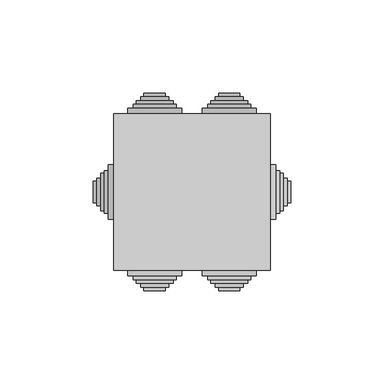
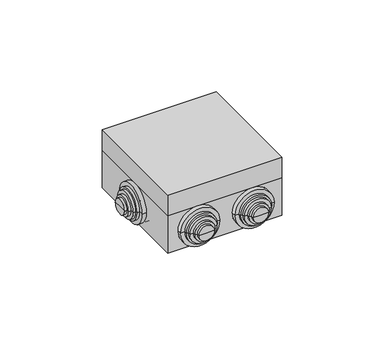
"""IFC4 building model written with IfcOpenShell, lengths in millimetres: cable carrier fitting geometry."""

from ifc_helpers import new_model, si_unit, frame, origin, place, context, project, spatial, polyline, circle_curve, faceted_brep, source, transform, mapped, element, save
from ifc_brep_helpers import plane_surface, cylinder_surface, revolved_surface, advanced_brep


def cable_carrier_fitting_2ab13ce0(model_context):
    return source(origin(), model_context, "Body", "SolidModel", [
        advanced_brep(
        [(-40.0, -11.5, 14.5), (-40.0, 11.5, 14.5), (-40.0, 14.5, 14.5), (-40.0, -14.5, 14.5), (-42.0, -11.5, 14.5), (-42.0, 11.5, 14.5), (-42.0, -14.5, 14.5), (-42.0, 14.5, 14.5), (-45.0, -14.5, 14.5), (-45.0, 14.5, 14.5), (-45.0, -11.5, 14.5), (-45.0, 11.5, 14.5), (-47.0, -11.5, 14.5), (-47.0, 11.5, 14.5), (-47.0, -10.0, 14.5), (-47.0, 10.0, 14.5), (-49.0, -10.0, 14.5), (-49.0, 10.0, 14.5), (-49.0, -7.5, 14.5), (-49.0, 7.5, 14.5), (-51.0, -7.5, 14.5), (-51.0, 7.5, 14.5), (-51.0, -5.75, 14.5), (-51.0, 5.75, 14.5), (-53.0, -5.75, 14.5), (-53.0, 5.75, 14.5), (-53.0, 0.0, 14.5), (-37.0, -11.5, 14.5), (-37.0, 11.5, 14.5), (-37.0, 0.0, 14.5), (-37.7491137, -14.5, 14.5), (-37.7491137, 14.5, 14.5)],
        [
            (0, 1, circle_curve(frame((-40.0, 0.0, 14.5), z_axis=(1.0, 0.0, 0.0), x_axis=(0.0, 1.0000000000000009, 0.0)), 11.5)),
            (1, 2),
            (2, 3, circle_curve(frame((-40.0, 0.0, 14.5), z_axis=(-1.0, 0.0, 0.0), x_axis=(0.0, 1.0000000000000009, 0.0)), 14.5)),
            (3, 0),
            (1, 0, circle_curve(frame((-40.0, 0.0, 14.5), z_axis=(1.0, 0.0, 0.0), x_axis=(0.0, 1.0000000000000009, 0.0)), 11.5)),
            (3, 2, circle_curve(frame((-40.0, 0.0, 14.5), z_axis=(-1.0, 0.0, 0.0), x_axis=(0.0, 1.0000000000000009, 0.0)), 14.5)),
            (4, 5, circle_curve(frame((-42.0, 0.0, 14.5), z_axis=(1.0, 0.0, 0.0), x_axis=(0.0, 1.0000000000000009, 0.0)), 11.5)),
            (5, 1),
            (0, 4),
            (5, 4, circle_curve(frame((-42.0, 0.0, 14.5), z_axis=(1.0, 0.0, 0.0), x_axis=(0.0, 1.0000000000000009, 0.0)), 11.5)),
            (6, 7, circle_curve(frame((-42.0, 0.0, 14.5), z_axis=(1.0, 0.0, 0.0), x_axis=(0.0, 1.0000000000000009, 0.0)), 14.5)),
            (7, 5),
            (4, 6),
            (7, 6, circle_curve(frame((-42.0, 0.0, 14.5), z_axis=(1.0, 0.0, 0.0), x_axis=(0.0, 1.0000000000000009, 0.0)), 14.5)),
            (8, 9, circle_curve(frame((-45.0, 0.0, 14.5), z_axis=(1.0, 0.0, 0.0), x_axis=(0.0, 1.0000000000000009, 0.0)), 14.5)),
            (9, 7),
            (6, 8),
            (9, 8, circle_curve(frame((-45.0, 0.0, 14.5), z_axis=(1.0, 0.0, 0.0), x_axis=(0.0, 1.0000000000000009, 0.0)), 14.5)),
            (10, 11, circle_curve(frame((-45.0, 0.0, 14.5), z_axis=(1.0, 0.0, 0.0), x_axis=(0.0, 1.0000000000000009, 0.0)), 11.5)),
            (11, 9),
            (8, 10),
            (11, 10, circle_curve(frame((-45.0, 0.0, 14.5), z_axis=(1.0, 0.0, 0.0), x_axis=(0.0, 1.0000000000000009, 0.0)), 11.5)),
            (12, 13, circle_curve(frame((-47.0, 0.0, 14.5), z_axis=(1.0, 0.0, 0.0), x_axis=(0.0, 1.0000000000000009, 0.0)), 11.5)),
            (13, 11),
            (10, 12),
            (13, 12, circle_curve(frame((-47.0, 0.0, 14.5), z_axis=(1.0, 0.0, 0.0), x_axis=(0.0, 1.0000000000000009, 0.0)), 11.5)),
            (14, 15, circle_curve(frame((-47.0, 0.0, 14.5), z_axis=(1.0, 0.0, 0.0), x_axis=(0.0, 1.0000000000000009, 0.0)), 10.0)),
            (15, 13),
            (12, 14),
            (15, 14, circle_curve(frame((-47.0, 0.0, 14.5), z_axis=(1.0, 0.0, 0.0), x_axis=(0.0, 1.0000000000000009, 0.0)), 10.0)),
            (16, 17, circle_curve(frame((-49.0, 0.0, 14.5), z_axis=(1.0, 0.0, 0.0), x_axis=(0.0, 1.0000000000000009, 0.0)), 10.0)),
            (17, 15),
            (14, 16),
            (17, 16, circle_curve(frame((-49.0, 0.0, 14.5), z_axis=(1.0, 0.0, 0.0), x_axis=(0.0, 1.0000000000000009, 0.0)), 10.0)),
            (18, 19, circle_curve(frame((-49.0, 0.0, 14.5), z_axis=(1.0, 0.0, 0.0), x_axis=(0.0, 1.0000000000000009, 0.0)), 7.5)),
            (19, 17),
            (16, 18),
            (19, 18, circle_curve(frame((-49.0, 0.0, 14.5), z_axis=(1.0, 0.0, 0.0), x_axis=(0.0, 1.0000000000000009, 0.0)), 7.5)),
            (20, 21, circle_curve(frame((-51.0, 0.0, 14.5), z_axis=(1.0, 0.0, 0.0), x_axis=(0.0, 1.0000000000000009, 0.0)), 7.5)),
            (21, 19),
            (18, 20),
            (21, 20, circle_curve(frame((-51.0, 0.0, 14.5), z_axis=(1.0, 0.0, 0.0), x_axis=(0.0, 1.0000000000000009, 0.0)), 7.5)),
            (22, 23, circle_curve(frame((-51.0, 0.0, 14.5), z_axis=(1.0, 0.0, 0.0), x_axis=(0.0, 1.0000000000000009, 0.0)), 5.75)),
            (23, 21),
            (20, 22),
            (23, 22, circle_curve(frame((-51.0, 0.0, 14.5), z_axis=(1.0, 0.0, 0.0), x_axis=(0.0, 1.0000000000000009, 0.0)), 5.75)),
            (24, 25, circle_curve(frame((-53.0, 0.0, 14.5), z_axis=(1.0, 0.0, 0.0), x_axis=(0.0, 1.0000000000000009, 0.0)), 5.75)),
            (25, 23),
            (22, 24),
            (25, 24, circle_curve(frame((-53.0, 0.0, 14.5), z_axis=(1.0, 0.0, 0.0), x_axis=(0.0, 1.0000000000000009, 0.0)), 5.75)),
            (26, 25),
            (24, 26),
            (27, 28, circle_curve(frame((-37.0, 0.0, 14.5), z_axis=(1.0, 0.0, 0.0), x_axis=(0.0, 1.0000000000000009, 0.0)), 11.5)),
            (28, 29),
            (29, 27),
            (28, 27, circle_curve(frame((-37.0, 0.0, 14.5), z_axis=(1.0, 0.0, 0.0), x_axis=(0.0, 1.0000000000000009, 0.0)), 11.5)),
            (30, 31, circle_curve(frame((-37.7491137, 0.0, 14.5), z_axis=(1.0, 0.0, 0.0), x_axis=(0.0, 1.0000000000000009, 0.0)), 14.5)),
            (31, 28),
            (27, 30),
            (31, 30, circle_curve(frame((-37.7491137, 0.0, 14.5), z_axis=(1.0, 0.0, 0.0), x_axis=(0.0, 1.0000000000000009, 0.0)), 14.5)),
            (2, 31),
            (30, 3),
        ],
        [
            plane_surface(frame((-40.0, 0.0, 14.5), z_axis=(-1.0, 0.0, 0.0), x_axis=(0.0, 1.0, 0.0))),
            cylinder_surface(frame((1473.0, 0.0, 14.5), z_axis=(-1.0000000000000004, 0.0, 0.0), x_axis=(0.0, 1.0000000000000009, 0.0)), 11.5),
            plane_surface(frame((-42.0, 0.0, 14.5), z_axis=(1.0, 0.0, 0.0), x_axis=(0.0, 1.0, 0.0))),
            cylinder_surface(frame((1473.0, 0.0, 14.5), z_axis=(-1.0000000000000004, 0.0, 0.0), x_axis=(0.0, 1.0000000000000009, 0.0)), 14.5),
            plane_surface(frame((-45.0, 0.0, 14.5), z_axis=(-1.0, 0.0, 0.0), x_axis=(0.0, 1.0, 0.0))),
            plane_surface(frame((-47.0, 0.0, 14.5), z_axis=(-1.0, 0.0, 0.0), x_axis=(0.0, 1.0, 0.0))),
            cylinder_surface(frame((1473.0, 0.0, 14.5), z_axis=(-1.0000000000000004, 0.0, 0.0), x_axis=(0.0, 1.0000000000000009, 0.0)), 10.0),
            plane_surface(frame((-49.0, 0.0, 14.5), z_axis=(-1.0, 0.0, 0.0), x_axis=(0.0, 1.0, 0.0))),
            cylinder_surface(frame((1473.0, 0.0, 14.5), z_axis=(-1.0000000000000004, 0.0, 0.0), x_axis=(0.0, 1.0000000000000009, 0.0)), 7.5),
            plane_surface(frame((-51.0, 0.0, 14.5), z_axis=(-1.0, 0.0, 0.0), x_axis=(0.0, 1.0, 0.0))),
            cylinder_surface(frame((1473.0, 0.0, 14.5), z_axis=(-1.0000000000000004, 0.0, 0.0), x_axis=(0.0, 1.0000000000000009, 0.0)), 5.75),
            plane_surface(frame((-53.0, 0.0, 14.5), z_axis=(-1.0, 0.0, 0.0), x_axis=(0.0, 1.0, 0.0))),
            plane_surface(frame((-37.0, 0.0, 14.5), z_axis=(1.0, 0.0, 0.0), x_axis=(0.0, 1.0, 0.0))),
            revolved_surface(polyline([(-37.0, 11.5, 14.5), (-37.7491137, 14.5, 14.5)]), (1473.0, 0.0, 14.5), (-1.0000000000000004, 0.0, 0.0)),
        ],
        [
            (0, [[1, 2, 3, 4]]),
            (0, [[5, -4, 6, -2]]),
            (1, [[7, 8, -1, 9]]),
            (1, [[10, -9, -5, -8]]),
            (2, [[11, 12, -7, 13]]),
            (2, [[14, -13, -10, -12]]),
            (3, [[15, 16, -11, 17]]),
            (3, [[18, -17, -14, -16]]),
            (4, [[19, 20, -15, 21]]),
            (4, [[22, -21, -18, -20]]),
            (1, [[23, 24, -19, 25]]),
            (1, [[26, -25, -22, -24]]),
            (5, [[27, 28, -23, 29]]),
            (5, [[30, -29, -26, -28]]),
            (6, [[31, 32, -27, 33]]),
            (6, [[34, -33, -30, -32]]),
            (7, [[35, 36, -31, 37]]),
            (7, [[38, -37, -34, -36]]),
            (8, [[39, 40, -35, 41]]),
            (8, [[42, -41, -38, -40]]),
            (9, [[43, 44, -39, 45]]),
            (9, [[46, -45, -42, -44]]),
            (10, [[47, 48, -43, 49]]),
            (10, [[50, -49, -46, -48]]),
            (11, [[51, -47, 52]]),
            (11, [[-52, -50, -51]]),
            (12, [[53, 54, 55]]),
            (12, [[56, -55, -54]]),
            (13, [[57, 58, -53, 59]]),
            (13, [[60, -59, -56, -58]]),
            (3, [[-3, 61, -57, 62]]),
            (3, [[-6, -62, -60, -61]]),
        ],
    ),
        advanced_brep(
        [(40.0, 11.5, 14.5), (40.0, -11.5, 14.5), (40.0, -14.5, 14.5), (40.0, 14.5, 14.5), (42.0, 11.5, 14.5), (42.0, -11.5, 14.5), (42.0, 14.5, 14.5), (42.0, -14.5, 14.5), (45.0, 14.5, 14.5), (45.0, -14.5, 14.5), (45.0, 11.5, 14.5), (45.0, -11.5, 14.5), (47.0, 11.5, 14.5), (47.0, -11.5, 14.5), (47.0, 10.0, 14.5), (47.0, -10.0, 14.5), (49.0, 10.0, 14.5), (49.0, -10.0, 14.5), (49.0, 7.5, 14.5), (49.0, -7.5, 14.5), (51.0, 7.5, 14.5), (51.0, -7.5, 14.5), (51.0, 5.75, 14.5), (51.0, -5.75, 14.5), (53.0, 5.75, 14.5), (53.0, -5.75, 14.5), (53.0, 0.0, 14.5), (37.0, 11.5, 14.5), (37.0, -11.5, 14.5), (37.0, 0.0, 14.5), (37.7491137, 14.5, 14.5), (37.7491137, -14.5, 14.5)],
        [
            (0, 1, circle_curve(frame((40.0, 0.0, 14.5), z_axis=(-1.0, 0.0, 0.0), x_axis=(0.0, -1.0, 0.0)), 11.5)),
            (1, 2),
            (2, 3, circle_curve(frame((40.0, 0.0, 14.5), z_axis=(1.0, 0.0, 0.0), x_axis=(0.0, -1.0, 0.0)), 14.5)),
            (3, 0),
            (1, 0, circle_curve(frame((40.0, 0.0, 14.5), z_axis=(-1.0, 0.0, 0.0), x_axis=(0.0, -1.0, 0.0)), 11.5)),
            (3, 2, circle_curve(frame((40.0, 0.0, 14.5), z_axis=(1.0, 0.0, 0.0), x_axis=(0.0, -1.0, 0.0)), 14.5)),
            (4, 5, circle_curve(frame((42.0, 0.0, 14.5), z_axis=(-1.0, 0.0, 0.0), x_axis=(0.0, -1.0, 0.0)), 11.5)),
            (5, 1),
            (0, 4),
            (5, 4, circle_curve(frame((42.0, 0.0, 14.5), z_axis=(-1.0, 0.0, 0.0), x_axis=(0.0, -1.0, 0.0)), 11.5)),
            (6, 7, circle_curve(frame((42.0, 0.0, 14.5), z_axis=(-1.0, 0.0, 0.0), x_axis=(0.0, -1.0, 0.0)), 14.5)),
            (7, 5),
            (4, 6),
            (7, 6, circle_curve(frame((42.0, 0.0, 14.5), z_axis=(-1.0, 0.0, 0.0), x_axis=(0.0, -1.0, 0.0)), 14.5)),
            (8, 9, circle_curve(frame((45.0, 0.0, 14.5), z_axis=(-1.0, 0.0, 0.0), x_axis=(0.0, -1.0, 0.0)), 14.5)),
            (9, 7),
            (6, 8),
            (9, 8, circle_curve(frame((45.0, 0.0, 14.5), z_axis=(-1.0, 0.0, 0.0), x_axis=(0.0, -1.0, 0.0)), 14.5)),
            (10, 11, circle_curve(frame((45.0, 0.0, 14.5), z_axis=(-1.0, 0.0, 0.0), x_axis=(0.0, -1.0, 0.0)), 11.5)),
            (11, 9),
            (8, 10),
            (11, 10, circle_curve(frame((45.0, 0.0, 14.5), z_axis=(-1.0, 0.0, 0.0), x_axis=(0.0, -1.0, 0.0)), 11.5)),
            (12, 13, circle_curve(frame((47.0, 0.0, 14.5), z_axis=(-1.0, 0.0, 0.0), x_axis=(0.0, -1.0, 0.0)), 11.5)),
            (13, 11),
            (10, 12),
            (13, 12, circle_curve(frame((47.0, 0.0, 14.5), z_axis=(-1.0, 0.0, 0.0), x_axis=(0.0, -1.0, 0.0)), 11.5)),
            (14, 15, circle_curve(frame((47.0, 0.0, 14.5), z_axis=(-1.0, 0.0, 0.0), x_axis=(0.0, -1.0, 0.0)), 10.0)),
            (15, 13),
            (12, 14),
            (15, 14, circle_curve(frame((47.0, 0.0, 14.5), z_axis=(-1.0, 0.0, 0.0), x_axis=(0.0, -1.0, 0.0)), 10.0)),
            (16, 17, circle_curve(frame((49.0, 0.0, 14.5), z_axis=(-1.0, 0.0, 0.0), x_axis=(0.0, -1.0, 0.0)), 10.0)),
            (17, 15),
            (14, 16),
            (17, 16, circle_curve(frame((49.0, 0.0, 14.5), z_axis=(-1.0, 0.0, 0.0), x_axis=(0.0, -1.0, 0.0)), 10.0)),
            (18, 19, circle_curve(frame((49.0, 0.0, 14.5), z_axis=(-1.0, 0.0, 0.0), x_axis=(0.0, -1.0, 0.0)), 7.5)),
            (19, 17),
            (16, 18),
            (19, 18, circle_curve(frame((49.0, 0.0, 14.5), z_axis=(-1.0, 0.0, 0.0), x_axis=(0.0, -1.0, 0.0)), 7.5)),
            (20, 21, circle_curve(frame((51.0, 0.0, 14.5), z_axis=(-1.0, 0.0, 0.0), x_axis=(0.0, -1.0, 0.0)), 7.5)),
            (21, 19),
            (18, 20),
            (21, 20, circle_curve(frame((51.0, 0.0, 14.5), z_axis=(-1.0, 0.0, 0.0), x_axis=(0.0, -1.0, 0.0)), 7.5)),
            (22, 23, circle_curve(frame((51.0, 0.0, 14.5), z_axis=(-1.0, 0.0, 0.0), x_axis=(0.0, -1.0, 0.0)), 5.75)),
            (23, 21),
            (20, 22),
            (23, 22, circle_curve(frame((51.0, 0.0, 14.5), z_axis=(-1.0, 0.0, 0.0), x_axis=(0.0, -1.0, 0.0)), 5.75)),
            (24, 25, circle_curve(frame((53.0, 0.0, 14.5), z_axis=(-1.0, 0.0, 0.0), x_axis=(0.0, -1.0, 0.0)), 5.75)),
            (25, 23),
            (22, 24),
            (25, 24, circle_curve(frame((53.0, 0.0, 14.5), z_axis=(-1.0, 0.0, 0.0), x_axis=(0.0, -1.0, 0.0)), 5.75)),
            (26, 25),
            (24, 26),
            (27, 28, circle_curve(frame((37.0, 0.0, 14.5), z_axis=(-1.0, 0.0, 0.0), x_axis=(0.0, -1.0, 0.0)), 11.5)),
            (28, 29),
            (29, 27),
            (28, 27, circle_curve(frame((37.0, 0.0, 14.5), z_axis=(-1.0, 0.0, 0.0), x_axis=(0.0, -1.0, 0.0)), 11.5)),
            (30, 31, circle_curve(frame((37.7491137, 0.0, 14.5), z_axis=(-1.0, 0.0, 0.0), x_axis=(0.0, -1.0, 0.0)), 14.5)),
            (31, 28),
            (27, 30),
            (31, 30, circle_curve(frame((37.7491137, 0.0, 14.5), z_axis=(-1.0, 0.0, 0.0), x_axis=(0.0, -1.0, 0.0)), 14.5)),
            (2, 31),
            (30, 3),
        ],
        [
            plane_surface(frame((40.0, 0.0, 14.5), z_axis=(1.0, 0.0, 0.0), x_axis=(0.0, -1.0, 0.0))),
            cylinder_surface(frame((-1473.0, 0.0, 14.5), z_axis=(1.0, 0.0, 0.0), x_axis=(0.0, -1.0, 0.0)), 11.5),
            plane_surface(frame((42.0, 0.0, 14.5), z_axis=(-1.0, 0.0, 0.0), x_axis=(0.0, -1.0, 0.0))),
            cylinder_surface(frame((-1473.0, 0.0, 14.5), z_axis=(1.0, 0.0, 0.0), x_axis=(0.0, -1.0, 0.0)), 14.5),
            plane_surface(frame((45.0, 0.0, 14.5), z_axis=(1.0, 0.0, 0.0), x_axis=(0.0, -1.0, 0.0))),
            plane_surface(frame((47.0, 0.0, 14.5), z_axis=(1.0, 0.0, 0.0), x_axis=(0.0, -1.0, 0.0))),
            cylinder_surface(frame((-1473.0, 0.0, 14.5), z_axis=(1.0, 0.0, 0.0), x_axis=(0.0, -1.0, 0.0)), 10.0),
            plane_surface(frame((49.0, 0.0, 14.5), z_axis=(1.0, 0.0, 0.0), x_axis=(0.0, -1.0, 0.0))),
            cylinder_surface(frame((-1473.0, 0.0, 14.5), z_axis=(1.0, 0.0, 0.0), x_axis=(0.0, -1.0, 0.0)), 7.5),
            plane_surface(frame((51.0, 0.0, 14.5), z_axis=(1.0, 0.0, 0.0), x_axis=(0.0, -1.0, 0.0))),
            cylinder_surface(frame((-1473.0, 0.0, 14.5), z_axis=(1.0, 0.0, 0.0), x_axis=(0.0, -1.0, 0.0)), 5.75),
            plane_surface(frame((53.0, 0.0, 14.5), z_axis=(1.0, 0.0, 0.0), x_axis=(0.0, -1.0, 0.0))),
            plane_surface(frame((37.0, 0.0, 14.5), z_axis=(-1.0, 0.0, 0.0), x_axis=(0.0, -1.0, 0.0))),
            revolved_surface(polyline([(37.0, -11.5, 14.5), (37.7491137, -14.5, 14.5)]), (-1473.0, 0.0, 14.5), (1.0, 0.0, 0.0)),
        ],
        [
            (0, [[1, 2, 3, 4]]),
            (0, [[5, -4, 6, -2]]),
            (1, [[7, 8, -1, 9]]),
            (1, [[10, -9, -5, -8]]),
            (2, [[11, 12, -7, 13]]),
            (2, [[14, -13, -10, -12]]),
            (3, [[15, 16, -11, 17]]),
            (3, [[18, -17, -14, -16]]),
            (4, [[19, 20, -15, 21]]),
            (4, [[22, -21, -18, -20]]),
            (1, [[23, 24, -19, 25]]),
            (1, [[26, -25, -22, -24]]),
            (5, [[27, 28, -23, 29]]),
            (5, [[30, -29, -26, -28]]),
            (6, [[31, 32, -27, 33]]),
            (6, [[34, -33, -30, -32]]),
            (7, [[35, 36, -31, 37]]),
            (7, [[38, -37, -34, -36]]),
            (8, [[39, 40, -35, 41]]),
            (8, [[42, -41, -38, -40]]),
            (9, [[43, 44, -39, 45]]),
            (9, [[46, -45, -42, -44]]),
            (10, [[47, 48, -43, 49]]),
            (10, [[50, -49, -46, -48]]),
            (11, [[51, -47, 52]]),
            (11, [[-52, -50, -51]]),
            (12, [[53, 54, 55]]),
            (12, [[56, -55, -54]]),
            (13, [[57, 58, -53, 59]]),
            (13, [[60, -59, -56, -58]]),
            (3, [[-3, 61, -57, 62]]),
            (3, [[-6, -62, -60, -61]]),
        ],
    ),
        advanced_brep(
        [(31.5, -40.0, 14.5), (8.5, -40.0, 14.5), (5.5, -40.0, 14.5), (34.5, -40.0, 14.5), (31.5, -42.0, 14.5), (8.5, -42.0, 14.5), (34.5, -42.0, 14.5), (5.5, -42.0, 14.5), (34.5, -45.0, 14.5), (5.5, -45.0, 14.5), (31.5, -45.0, 14.5), (8.5, -45.0, 14.5), (31.5, -47.0, 14.5), (8.5, -47.0, 14.5), (30.0, -47.0, 14.5), (10.0, -47.0, 14.5), (30.0, -49.0, 14.5), (10.0, -49.0, 14.5), (27.5, -49.0, 14.5), (12.5, -49.0, 14.5), (27.5, -51.0, 14.5), (12.5, -51.0, 14.5), (25.75, -51.0, 14.5), (14.25, -51.0, 14.5), (25.75, -53.0, 14.5), (14.25, -53.0, 14.5), (20.0, -53.0, 14.5), (31.5, -37.0, 14.5), (8.5, -37.0, 14.5), (20.0, -37.0, 14.5), (34.5, -37.7491137, 14.5), (5.5, -37.7491137, 14.5)],
        [
            (0, 1, circle_curve(frame((20.0, -40.0, 14.5), z_axis=(0.0, 1.0, 0.0), x_axis=(-1.0000000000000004, 0.0, 0.0)), 11.5)),
            (1, 2),
            (2, 3, circle_curve(frame((20.0, -40.0, 14.5), z_axis=(0.0, -1.0, 0.0), x_axis=(-1.0000000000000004, 0.0, 0.0)), 14.5)),
            (3, 0),
            (1, 0, circle_curve(frame((20.0, -40.0, 14.5), z_axis=(0.0, 1.0, 0.0), x_axis=(-1.0000000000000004, 0.0, 0.0)), 11.5)),
            (3, 2, circle_curve(frame((20.0, -40.0, 14.5), z_axis=(0.0, -1.0, 0.0), x_axis=(-1.0000000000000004, 0.0, 0.0)), 14.5)),
            (4, 5, circle_curve(frame((20.0, -42.0, 14.5), z_axis=(0.0, 1.0, 0.0), x_axis=(-1.0000000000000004, 0.0, 0.0)), 11.5)),
            (5, 1),
            (0, 4),
            (5, 4, circle_curve(frame((20.0, -42.0, 14.5), z_axis=(0.0, 1.0, 0.0), x_axis=(-1.0000000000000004, 0.0, 0.0)), 11.5)),
            (6, 7, circle_curve(frame((20.0, -42.0, 14.5), z_axis=(0.0, 1.0, 0.0), x_axis=(-1.0000000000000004, 0.0, 0.0)), 14.5)),
            (7, 5),
            (4, 6),
            (7, 6, circle_curve(frame((20.0, -42.0, 14.5), z_axis=(0.0, 1.0, 0.0), x_axis=(-1.0000000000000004, 0.0, 0.0)), 14.5)),
            (8, 9, circle_curve(frame((20.0, -45.0, 14.5), z_axis=(0.0, 1.0, 0.0), x_axis=(-1.0000000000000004, 0.0, 0.0)), 14.5)),
            (9, 7),
            (6, 8),
            (9, 8, circle_curve(frame((20.0, -45.0, 14.5), z_axis=(0.0, 1.0, 0.0), x_axis=(-1.0000000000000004, 0.0, 0.0)), 14.5)),
            (10, 11, circle_curve(frame((20.0, -45.0, 14.5), z_axis=(0.0, 1.0, 0.0), x_axis=(-1.0000000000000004, 0.0, 0.0)), 11.5)),
            (11, 9),
            (8, 10),
            (11, 10, circle_curve(frame((20.0, -45.0, 14.5), z_axis=(0.0, 1.0, 0.0), x_axis=(-1.0000000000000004, 0.0, 0.0)), 11.5)),
            (12, 13, circle_curve(frame((20.0, -47.0, 14.5), z_axis=(0.0, 1.0, 0.0), x_axis=(-1.0000000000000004, 0.0, 0.0)), 11.5)),
            (13, 11),
            (10, 12),
            (13, 12, circle_curve(frame((20.0, -47.0, 14.5), z_axis=(0.0, 1.0, 0.0), x_axis=(-1.0000000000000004, 0.0, 0.0)), 11.5)),
            (14, 15, circle_curve(frame((20.0, -47.0, 14.5), z_axis=(0.0, 1.0, 0.0), x_axis=(-1.0000000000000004, 0.0, 0.0)), 10.0)),
            (15, 13),
            (12, 14),
            (15, 14, circle_curve(frame((20.0, -47.0, 14.5), z_axis=(0.0, 1.0, 0.0), x_axis=(-1.0000000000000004, 0.0, 0.0)), 10.0)),
            (16, 17, circle_curve(frame((20.0, -49.0, 14.5), z_axis=(0.0, 1.0, 0.0), x_axis=(-1.0000000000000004, 0.0, 0.0)), 10.0)),
            (17, 15),
            (14, 16),
            (17, 16, circle_curve(frame((20.0, -49.0, 14.5), z_axis=(0.0, 1.0, 0.0), x_axis=(-1.0000000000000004, 0.0, 0.0)), 10.0)),
            (18, 19, circle_curve(frame((20.0, -49.0, 14.5), z_axis=(0.0, 1.0, 0.0), x_axis=(-1.0000000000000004, 0.0, 0.0)), 7.5)),
            (19, 17),
            (16, 18),
            (19, 18, circle_curve(frame((20.0, -49.0, 14.5), z_axis=(0.0, 1.0, 0.0), x_axis=(-1.0000000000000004, 0.0, 0.0)), 7.5)),
            (20, 21, circle_curve(frame((20.0, -51.0, 14.5), z_axis=(0.0, 1.0, 0.0), x_axis=(-1.0000000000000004, 0.0, 0.0)), 7.5)),
            (21, 19),
            (18, 20),
            (21, 20, circle_curve(frame((20.0, -51.0, 14.5), z_axis=(0.0, 1.0, 0.0), x_axis=(-1.0000000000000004, 0.0, 0.0)), 7.5)),
            (22, 23, circle_curve(frame((20.0, -51.0, 14.5), z_axis=(0.0, 1.0, 0.0), x_axis=(-1.0000000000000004, 0.0, 0.0)), 5.75)),
            (23, 21),
            (20, 22),
            (23, 22, circle_curve(frame((20.0, -51.0, 14.5), z_axis=(0.0, 1.0, 0.0), x_axis=(-1.0000000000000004, 0.0, 0.0)), 5.75)),
            (24, 25, circle_curve(frame((20.0, -53.0, 14.5), z_axis=(0.0, 1.0, 0.0), x_axis=(-1.0000000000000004, 0.0, 0.0)), 5.75)),
            (25, 23),
            (22, 24),
            (25, 24, circle_curve(frame((20.0, -53.0, 14.5), z_axis=(0.0, 1.0, 0.0), x_axis=(-1.0000000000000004, 0.0, 0.0)), 5.75)),
            (26, 25),
            (24, 26),
            (27, 28, circle_curve(frame((20.0, -37.0, 14.5), z_axis=(0.0, 1.0, 0.0), x_axis=(-1.0000000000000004, 0.0, 0.0)), 11.5)),
            (28, 29),
            (29, 27),
            (28, 27, circle_curve(frame((20.0, -37.0, 14.5), z_axis=(0.0, 1.0, 0.0), x_axis=(-1.0000000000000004, 0.0, 0.0)), 11.5)),
            (30, 31, circle_curve(frame((20.0, -37.7491137, 14.5), z_axis=(0.0, 1.0, 0.0), x_axis=(-1.0000000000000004, 0.0, 0.0)), 14.5)),
            (31, 28),
            (27, 30),
            (31, 30, circle_curve(frame((20.0, -37.7491137, 14.5), z_axis=(0.0, 1.0, 0.0), x_axis=(-1.0000000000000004, 0.0, 0.0)), 14.5)),
            (2, 31),
            (30, 3),
        ],
        [
            plane_surface(frame((20.0, -40.0, 14.5), z_axis=(0.0, -1.0, 0.0), x_axis=(-1.0, 0.0, 0.0))),
            cylinder_surface(frame((20.0, 1473.0, 14.5), z_axis=(0.0, -1.0000000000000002, 0.0), x_axis=(-1.0000000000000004, 0.0, 0.0)), 11.5),
            plane_surface(frame((20.0, -42.0, 14.5), z_axis=(0.0, 1.0, 0.0), x_axis=(-1.0, 0.0, 0.0))),
            cylinder_surface(frame((20.0, 1473.0, 14.5), z_axis=(0.0, -1.0000000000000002, 0.0), x_axis=(-1.0000000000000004, 0.0, 0.0)), 14.5),
            plane_surface(frame((20.0, -45.0, 14.5), z_axis=(0.0, -1.0, 0.0), x_axis=(-1.0, 0.0, 0.0))),
            plane_surface(frame((20.0, -47.0, 14.5), z_axis=(0.0, -1.0, 0.0), x_axis=(-1.0, 0.0, 0.0))),
            cylinder_surface(frame((20.0, 1473.0, 14.5), z_axis=(0.0, -1.0000000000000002, 0.0), x_axis=(-1.0000000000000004, 0.0, 0.0)), 10.0),
            plane_surface(frame((20.0, -49.0, 14.5), z_axis=(0.0, -1.0, 0.0), x_axis=(-1.0, 0.0, 0.0))),
            cylinder_surface(frame((20.0, 1473.0, 14.5), z_axis=(0.0, -1.0000000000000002, 0.0), x_axis=(-1.0000000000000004, 0.0, 0.0)), 7.5),
            plane_surface(frame((20.0, -51.0, 14.5), z_axis=(0.0, -1.0, 0.0), x_axis=(-1.0, 0.0, 0.0))),
            cylinder_surface(frame((20.0, 1473.0, 14.5), z_axis=(0.0, -1.0000000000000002, 0.0), x_axis=(-1.0000000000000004, 0.0, 0.0)), 5.75),
            plane_surface(frame((20.0, -53.0, 14.5), z_axis=(0.0, -1.0, 0.0), x_axis=(-1.0, 0.0, 0.0))),
            plane_surface(frame((20.0, -37.0, 14.5), z_axis=(0.0, 1.0, 0.0), x_axis=(-1.0, 0.0, 0.0))),
            revolved_surface(polyline([(8.5, -37.0, 14.5), (5.5, -37.7491137, 14.5)]), (20.0, 1473.0, 14.5), (0.0, -1.0000000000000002, 0.0)),
        ],
        [
            (0, [[1, 2, 3, 4]]),
            (0, [[5, -4, 6, -2]]),
            (1, [[7, 8, -1, 9]]),
            (1, [[10, -9, -5, -8]]),
            (2, [[11, 12, -7, 13]]),
            (2, [[14, -13, -10, -12]]),
            (3, [[15, 16, -11, 17]]),
            (3, [[18, -17, -14, -16]]),
            (4, [[19, 20, -15, 21]]),
            (4, [[22, -21, -18, -20]]),
            (1, [[23, 24, -19, 25]]),
            (1, [[26, -25, -22, -24]]),
            (5, [[27, 28, -23, 29]]),
            (5, [[30, -29, -26, -28]]),
            (6, [[31, 32, -27, 33]]),
            (6, [[34, -33, -30, -32]]),
            (7, [[35, 36, -31, 37]]),
            (7, [[38, -37, -34, -36]]),
            (8, [[39, 40, -35, 41]]),
            (8, [[42, -41, -38, -40]]),
            (9, [[43, 44, -39, 45]]),
            (9, [[46, -45, -42, -44]]),
            (10, [[47, 48, -43, 49]]),
            (10, [[50, -49, -46, -48]]),
            (11, [[51, -47, 52]]),
            (11, [[-52, -50, -51]]),
            (12, [[53, 54, 55]]),
            (12, [[56, -55, -54]]),
            (13, [[57, 58, -53, 59]]),
            (13, [[60, -59, -56, -58]]),
            (3, [[-3, 61, -57, 62]]),
            (3, [[-6, -62, -60, -61]]),
        ],
    ),
        advanced_brep(
        [(-8.5, -40.0, 14.5), (-31.5, -40.0, 14.5), (-34.5, -40.0, 14.5), (-5.5, -40.0, 14.5), (-8.5, -42.0, 14.5), (-31.5, -42.0, 14.5), (-5.5, -42.0, 14.5), (-34.5, -42.0, 14.5), (-5.5, -45.0, 14.5), (-34.5, -45.0, 14.5), (-8.5, -45.0, 14.5), (-31.5, -45.0, 14.5), (-8.5, -47.0, 14.5), (-31.5, -47.0, 14.5), (-10.0, -47.0, 14.5), (-30.0, -47.0, 14.5), (-10.0, -49.0, 14.5), (-30.0, -49.0, 14.5), (-12.5, -49.0, 14.5), (-27.5, -49.0, 14.5), (-12.5, -51.0, 14.5), (-27.5, -51.0, 14.5), (-14.25, -51.0, 14.5), (-25.75, -51.0, 14.5), (-14.25, -53.0, 14.5), (-25.75, -53.0, 14.5), (-20.0, -53.0, 14.5), (-8.5, -37.0, 14.5), (-31.5, -37.0, 14.5), (-20.0, -37.0, 14.5), (-5.5, -37.7491137, 14.5), (-34.5, -37.7491137, 14.5)],
        [
            (0, 1, circle_curve(frame((-20.0, -40.0, 14.5), z_axis=(0.0, 1.0, 0.0), x_axis=(-1.0000000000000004, 0.0, 0.0)), 11.5)),
            (1, 2),
            (2, 3, circle_curve(frame((-20.0, -40.0, 14.5), z_axis=(0.0, -1.0, 0.0), x_axis=(-1.0000000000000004, 0.0, 0.0)), 14.5)),
            (3, 0),
            (1, 0, circle_curve(frame((-20.0, -40.0, 14.5), z_axis=(0.0, 1.0, 0.0), x_axis=(-1.0000000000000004, 0.0, 0.0)), 11.5)),
            (3, 2, circle_curve(frame((-20.0, -40.0, 14.5), z_axis=(0.0, -1.0, 0.0), x_axis=(-1.0000000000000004, 0.0, 0.0)), 14.5)),
            (4, 5, circle_curve(frame((-20.0, -42.0, 14.5), z_axis=(0.0, 1.0, 0.0), x_axis=(-1.0000000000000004, 0.0, 0.0)), 11.5)),
            (5, 1),
            (0, 4),
            (5, 4, circle_curve(frame((-20.0, -42.0, 14.5), z_axis=(0.0, 1.0, 0.0), x_axis=(-1.0000000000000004, 0.0, 0.0)), 11.5)),
            (6, 7, circle_curve(frame((-20.0, -42.0, 14.5), z_axis=(0.0, 1.0, 0.0), x_axis=(-1.0000000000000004, 0.0, 0.0)), 14.5)),
            (7, 5),
            (4, 6),
            (7, 6, circle_curve(frame((-20.0, -42.0, 14.5), z_axis=(0.0, 1.0, 0.0), x_axis=(-1.0000000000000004, 0.0, 0.0)), 14.5)),
            (8, 9, circle_curve(frame((-20.0, -45.0, 14.5), z_axis=(0.0, 1.0, 0.0), x_axis=(-1.0000000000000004, 0.0, 0.0)), 14.5)),
            (9, 7),
            (6, 8),
            (9, 8, circle_curve(frame((-20.0, -45.0, 14.5), z_axis=(0.0, 1.0, 0.0), x_axis=(-1.0000000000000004, 0.0, 0.0)), 14.5)),
            (10, 11, circle_curve(frame((-20.0, -45.0, 14.5), z_axis=(0.0, 1.0, 0.0), x_axis=(-1.0000000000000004, 0.0, 0.0)), 11.5)),
            (11, 9),
            (8, 10),
            (11, 10, circle_curve(frame((-20.0, -45.0, 14.5), z_axis=(0.0, 1.0, 0.0), x_axis=(-1.0000000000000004, 0.0, 0.0)), 11.5)),
            (12, 13, circle_curve(frame((-20.0, -47.0, 14.5), z_axis=(0.0, 1.0, 0.0), x_axis=(-1.0000000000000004, 0.0, 0.0)), 11.5)),
            (13, 11),
            (10, 12),
            (13, 12, circle_curve(frame((-20.0, -47.0, 14.5), z_axis=(0.0, 1.0, 0.0), x_axis=(-1.0000000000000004, 0.0, 0.0)), 11.5)),
            (14, 15, circle_curve(frame((-20.0, -47.0, 14.5), z_axis=(0.0, 1.0, 0.0), x_axis=(-1.0000000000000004, 0.0, 0.0)), 10.0)),
            (15, 13),
            (12, 14),
            (15, 14, circle_curve(frame((-20.0, -47.0, 14.5), z_axis=(0.0, 1.0, 0.0), x_axis=(-1.0000000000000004, 0.0, 0.0)), 10.0)),
            (16, 17, circle_curve(frame((-20.0, -49.0, 14.5), z_axis=(0.0, 1.0, 0.0), x_axis=(-1.0000000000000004, 0.0, 0.0)), 10.0)),
            (17, 15),
            (14, 16),
            (17, 16, circle_curve(frame((-20.0, -49.0, 14.5), z_axis=(0.0, 1.0, 0.0), x_axis=(-1.0000000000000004, 0.0, 0.0)), 10.0)),
            (18, 19, circle_curve(frame((-20.0, -49.0, 14.5), z_axis=(0.0, 1.0, 0.0), x_axis=(-1.0000000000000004, 0.0, 0.0)), 7.5)),
            (19, 17),
            (16, 18),
            (19, 18, circle_curve(frame((-20.0, -49.0, 14.5), z_axis=(0.0, 1.0, 0.0), x_axis=(-1.0000000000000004, 0.0, 0.0)), 7.5)),
            (20, 21, circle_curve(frame((-20.0, -51.0, 14.5), z_axis=(0.0, 1.0, 0.0), x_axis=(-1.0000000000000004, 0.0, 0.0)), 7.5)),
            (21, 19),
            (18, 20),
            (21, 20, circle_curve(frame((-20.0, -51.0, 14.5), z_axis=(0.0, 1.0, 0.0), x_axis=(-1.0000000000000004, 0.0, 0.0)), 7.5)),
            (22, 23, circle_curve(frame((-20.0, -51.0, 14.5), z_axis=(0.0, 1.0, 0.0), x_axis=(-1.0000000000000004, 0.0, 0.0)), 5.75)),
            (23, 21),
            (20, 22),
            (23, 22, circle_curve(frame((-20.0, -51.0, 14.5), z_axis=(0.0, 1.0, 0.0), x_axis=(-1.0000000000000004, 0.0, 0.0)), 5.75)),
            (24, 25, circle_curve(frame((-20.0, -53.0, 14.5), z_axis=(0.0, 1.0, 0.0), x_axis=(-1.0000000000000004, 0.0, 0.0)), 5.75)),
            (25, 23),
            (22, 24),
            (25, 24, circle_curve(frame((-20.0, -53.0, 14.5), z_axis=(0.0, 1.0, 0.0), x_axis=(-1.0000000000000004, 0.0, 0.0)), 5.75)),
            (26, 25),
            (24, 26),
            (27, 28, circle_curve(frame((-20.0, -37.0, 14.5), z_axis=(0.0, 1.0, 0.0), x_axis=(-1.0000000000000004, 0.0, 0.0)), 11.5)),
            (28, 29),
            (29, 27),
            (28, 27, circle_curve(frame((-20.0, -37.0, 14.5), z_axis=(0.0, 1.0, 0.0), x_axis=(-1.0000000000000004, 0.0, 0.0)), 11.5)),
            (30, 31, circle_curve(frame((-20.0, -37.7491137, 14.5), z_axis=(0.0, 1.0, 0.0), x_axis=(-1.0000000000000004, 0.0, 0.0)), 14.5)),
            (31, 28),
            (27, 30),
            (31, 30, circle_curve(frame((-20.0, -37.7491137, 14.5), z_axis=(0.0, 1.0, 0.0), x_axis=(-1.0000000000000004, 0.0, 0.0)), 14.5)),
            (2, 31),
            (30, 3),
        ],
        [
            plane_surface(frame((-20.0, -40.0, 14.5), z_axis=(0.0, -1.0, 0.0), x_axis=(-1.0, 0.0, 0.0))),
            cylinder_surface(frame((-20.0, 1473.0, 14.5), z_axis=(0.0, -1.0000000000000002, 0.0), x_axis=(-1.0000000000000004, 0.0, 0.0)), 11.5),
            plane_surface(frame((-20.0, -42.0, 14.5), z_axis=(0.0, 1.0, 0.0), x_axis=(-1.0, 0.0, 0.0))),
            cylinder_surface(frame((-20.0, 1473.0, 14.5), z_axis=(0.0, -1.0000000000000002, 0.0), x_axis=(-1.0000000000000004, 0.0, 0.0)), 14.5),
            plane_surface(frame((-20.0, -45.0, 14.5), z_axis=(0.0, -1.0, 0.0), x_axis=(-1.0, 0.0, 0.0))),
            plane_surface(frame((-20.0, -47.0, 14.5), z_axis=(0.0, -1.0, 0.0), x_axis=(-1.0, 0.0, 0.0))),
            cylinder_surface(frame((-20.0, 1473.0, 14.5), z_axis=(0.0, -1.0000000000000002, 0.0), x_axis=(-1.0000000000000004, 0.0, 0.0)), 10.0),
            plane_surface(frame((-20.0, -49.0, 14.5), z_axis=(0.0, -1.0, 0.0), x_axis=(-1.0, 0.0, 0.0))),
            cylinder_surface(frame((-20.0, 1473.0, 14.5), z_axis=(0.0, -1.0000000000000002, 0.0), x_axis=(-1.0000000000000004, 0.0, 0.0)), 7.5),
            plane_surface(frame((-20.0, -51.0, 14.5), z_axis=(0.0, -1.0, 0.0), x_axis=(-1.0, 0.0, 0.0))),
            cylinder_surface(frame((-20.0, 1473.0, 14.5), z_axis=(0.0, -1.0000000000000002, 0.0), x_axis=(-1.0000000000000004, 0.0, 0.0)), 5.75),
            plane_surface(frame((-20.0, -53.0, 14.5), z_axis=(0.0, -1.0, 0.0), x_axis=(-1.0, 0.0, 0.0))),
            plane_surface(frame((-20.0, -37.0, 14.5), z_axis=(0.0, 1.0, 0.0), x_axis=(-1.0, 0.0, 0.0))),
            revolved_surface(polyline([(-31.5, -37.0, 14.5), (-34.5, -37.7491137, 14.5)]), (-20.0, 1473.0, 14.5), (0.0, -1.0000000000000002, 0.0)),
        ],
        [
            (0, [[1, 2, 3, 4]]),
            (0, [[5, -4, 6, -2]]),
            (1, [[7, 8, -1, 9]]),
            (1, [[10, -9, -5, -8]]),
            (2, [[11, 12, -7, 13]]),
            (2, [[14, -13, -10, -12]]),
            (3, [[15, 16, -11, 17]]),
            (3, [[18, -17, -14, -16]]),
            (4, [[19, 20, -15, 21]]),
            (4, [[22, -21, -18, -20]]),
            (1, [[23, 24, -19, 25]]),
            (1, [[26, -25, -22, -24]]),
            (5, [[27, 28, -23, 29]]),
            (5, [[30, -29, -26, -28]]),
            (6, [[31, 32, -27, 33]]),
            (6, [[34, -33, -30, -32]]),
            (7, [[35, 36, -31, 37]]),
            (7, [[38, -37, -34, -36]]),
            (8, [[39, 40, -35, 41]]),
            (8, [[42, -41, -38, -40]]),
            (9, [[43, 44, -39, 45]]),
            (9, [[46, -45, -42, -44]]),
            (10, [[47, 48, -43, 49]]),
            (10, [[50, -49, -46, -48]]),
            (11, [[51, -47, 52]]),
            (11, [[-52, -50, -51]]),
            (12, [[53, 54, 55]]),
            (12, [[56, -55, -54]]),
            (13, [[57, 58, -53, 59]]),
            (13, [[60, -59, -56, -58]]),
            (3, [[-3, 61, -57, 62]]),
            (3, [[-6, -62, -60, -61]]),
        ],
    ),
        advanced_brep(
        [(8.5, 40.0, 14.5), (31.5, 40.0, 14.5), (34.5, 40.0, 14.5), (5.5, 40.0, 14.5), (8.5, 42.0, 14.5), (31.5, 42.0, 14.5), (5.5, 42.0, 14.5), (34.5, 42.0, 14.5), (5.5, 45.0, 14.5), (34.5, 45.0, 14.5), (8.5, 45.0, 14.5), (31.5, 45.0, 14.5), (8.5, 47.0, 14.5), (31.5, 47.0, 14.5), (10.0, 47.0, 14.5), (30.0, 47.0, 14.5), (10.0, 49.0, 14.5), (30.0, 49.0, 14.5), (12.5, 49.0, 14.5), (27.5, 49.0, 14.5), (12.5, 51.0, 14.5), (27.5, 51.0, 14.5), (14.25, 51.0, 14.5), (25.75, 51.0, 14.5), (14.25, 53.0, 14.5), (25.75, 53.0, 14.5), (20.0, 53.0, 14.5), (8.5, 37.0, 14.5), (31.5, 37.0, 14.5), (20.0, 37.0, 14.5), (5.5, 37.7491137, 14.5), (34.5, 37.7491137, 14.5)],
        [
            (0, 1, circle_curve(frame((20.0, 40.0, 14.5), z_axis=(0.0, -1.0, 0.0), x_axis=(1.0, 0.0, 0.0)), 11.5)),
            (1, 2),
            (2, 3, circle_curve(frame((20.0, 40.0, 14.5), z_axis=(0.0, 1.0, 0.0), x_axis=(1.0, 0.0, 0.0)), 14.5)),
            (3, 0),
            (1, 0, circle_curve(frame((20.0, 40.0, 14.5), z_axis=(0.0, -1.0, 0.0), x_axis=(1.0, 0.0, 0.0)), 11.5)),
            (3, 2, circle_curve(frame((20.0, 40.0, 14.5), z_axis=(0.0, 1.0, 0.0), x_axis=(1.0, 0.0, 0.0)), 14.5)),
            (4, 5, circle_curve(frame((20.0, 42.0, 14.5), z_axis=(0.0, -1.0, 0.0), x_axis=(1.0, 0.0, 0.0)), 11.5)),
            (5, 1),
            (0, 4),
            (5, 4, circle_curve(frame((20.0, 42.0, 14.5), z_axis=(0.0, -1.0, 0.0), x_axis=(1.0, 0.0, 0.0)), 11.5)),
            (6, 7, circle_curve(frame((20.0, 42.0, 14.5), z_axis=(0.0, -1.0, 0.0), x_axis=(1.0, 0.0, 0.0)), 14.5)),
            (7, 5),
            (4, 6),
            (7, 6, circle_curve(frame((20.0, 42.0, 14.5), z_axis=(0.0, -1.0, 0.0), x_axis=(1.0, 0.0, 0.0)), 14.5)),
            (8, 9, circle_curve(frame((20.0, 45.0, 14.5), z_axis=(0.0, -1.0, 0.0), x_axis=(1.0, 0.0, 0.0)), 14.5)),
            (9, 7),
            (6, 8),
            (9, 8, circle_curve(frame((20.0, 45.0, 14.5), z_axis=(0.0, -1.0, 0.0), x_axis=(1.0, 0.0, 0.0)), 14.5)),
            (10, 11, circle_curve(frame((20.0, 45.0, 14.5), z_axis=(0.0, -1.0, 0.0), x_axis=(1.0, 0.0, 0.0)), 11.5)),
            (11, 9),
            (8, 10),
            (11, 10, circle_curve(frame((20.0, 45.0, 14.5), z_axis=(0.0, -1.0, 0.0), x_axis=(1.0, 0.0, 0.0)), 11.5)),
            (12, 13, circle_curve(frame((20.0, 47.0, 14.5), z_axis=(0.0, -1.0, 0.0), x_axis=(1.0, 0.0, 0.0)), 11.5)),
            (13, 11),
            (10, 12),
            (13, 12, circle_curve(frame((20.0, 47.0, 14.5), z_axis=(0.0, -1.0, 0.0), x_axis=(1.0, 0.0, 0.0)), 11.5)),
            (14, 15, circle_curve(frame((20.0, 47.0, 14.5), z_axis=(0.0, -1.0, 0.0), x_axis=(1.0, 0.0, 0.0)), 10.0)),
            (15, 13),
            (12, 14),
            (15, 14, circle_curve(frame((20.0, 47.0, 14.5), z_axis=(0.0, -1.0, 0.0), x_axis=(1.0, 0.0, 0.0)), 10.0)),
            (16, 17, circle_curve(frame((20.0, 49.0, 14.5), z_axis=(0.0, -1.0, 0.0), x_axis=(1.0, 0.0, 0.0)), 10.0)),
            (17, 15),
            (14, 16),
            (17, 16, circle_curve(frame((20.0, 49.0, 14.5), z_axis=(0.0, -1.0, 0.0), x_axis=(1.0, 0.0, 0.0)), 10.0)),
            (18, 19, circle_curve(frame((20.0, 49.0, 14.5), z_axis=(0.0, -1.0, 0.0), x_axis=(1.0, 0.0, 0.0)), 7.5)),
            (19, 17),
            (16, 18),
            (19, 18, circle_curve(frame((20.0, 49.0, 14.5), z_axis=(0.0, -1.0, 0.0), x_axis=(1.0, 0.0, 0.0)), 7.5)),
            (20, 21, circle_curve(frame((20.0, 51.0, 14.5), z_axis=(0.0, -1.0, 0.0), x_axis=(1.0, 0.0, 0.0)), 7.5)),
            (21, 19),
            (18, 20),
            (21, 20, circle_curve(frame((20.0, 51.0, 14.5), z_axis=(0.0, -1.0, 0.0), x_axis=(1.0, 0.0, 0.0)), 7.5)),
            (22, 23, circle_curve(frame((20.0, 51.0, 14.5), z_axis=(0.0, -1.0, 0.0), x_axis=(1.0, 0.0, 0.0)), 5.75)),
            (23, 21),
            (20, 22),
            (23, 22, circle_curve(frame((20.0, 51.0, 14.5), z_axis=(0.0, -1.0, 0.0), x_axis=(1.0, 0.0, 0.0)), 5.75)),
            (24, 25, circle_curve(frame((20.0, 53.0, 14.5), z_axis=(0.0, -1.0, 0.0), x_axis=(1.0, 0.0, 0.0)), 5.75)),
            (25, 23),
            (22, 24),
            (25, 24, circle_curve(frame((20.0, 53.0, 14.5), z_axis=(0.0, -1.0, 0.0), x_axis=(1.0, 0.0, 0.0)), 5.75)),
            (26, 25),
            (24, 26),
            (27, 28, circle_curve(frame((20.0, 37.0, 14.5), z_axis=(0.0, -1.0, 0.0), x_axis=(1.0, 0.0, 0.0)), 11.5)),
            (28, 29),
            (29, 27),
            (28, 27, circle_curve(frame((20.0, 37.0, 14.5), z_axis=(0.0, -1.0, 0.0), x_axis=(1.0, 0.0, 0.0)), 11.5)),
            (30, 31, circle_curve(frame((20.0, 37.7491137, 14.5), z_axis=(0.0, -1.0, 0.0), x_axis=(1.0, 0.0, 0.0)), 14.5)),
            (31, 28),
            (27, 30),
            (31, 30, circle_curve(frame((20.0, 37.7491137, 14.5), z_axis=(0.0, -1.0, 0.0), x_axis=(1.0, 0.0, 0.0)), 14.5)),
            (2, 31),
            (30, 3),
        ],
        [
            plane_surface(frame((20.0, 40.0, 14.5), z_axis=(0.0, 1.0, 0.0), x_axis=(1.0, 0.0, 0.0))),
            cylinder_surface(frame((20.0, -1473.0, 14.5), z_axis=(0.0, 1.0, 0.0), x_axis=(1.0, 0.0, 0.0)), 11.5),
            plane_surface(frame((20.0, 42.0, 14.5), z_axis=(0.0, -1.0, 0.0), x_axis=(1.0, 0.0, 0.0))),
            cylinder_surface(frame((20.0, -1473.0, 14.5), z_axis=(0.0, 1.0, 0.0), x_axis=(1.0, 0.0, 0.0)), 14.5),
            plane_surface(frame((20.0, 45.0, 14.5), z_axis=(0.0, 1.0, 0.0), x_axis=(1.0, 0.0, 0.0))),
            plane_surface(frame((20.0, 47.0, 14.5), z_axis=(0.0, 1.0, 0.0), x_axis=(1.0, 0.0, 0.0))),
            cylinder_surface(frame((20.0, -1473.0, 14.5), z_axis=(0.0, 1.0, 0.0), x_axis=(1.0, 0.0, 0.0)), 10.0),
            plane_surface(frame((20.0, 49.0, 14.5), z_axis=(0.0, 1.0, 0.0), x_axis=(1.0, 0.0, 0.0))),
            cylinder_surface(frame((20.0, -1473.0, 14.5), z_axis=(0.0, 1.0, 0.0), x_axis=(1.0, 0.0, 0.0)), 7.5),
            plane_surface(frame((20.0, 51.0, 14.5), z_axis=(0.0, 1.0, 0.0), x_axis=(1.0, 0.0, 0.0))),
            cylinder_surface(frame((20.0, -1473.0, 14.5), z_axis=(0.0, 1.0, 0.0), x_axis=(1.0, 0.0, 0.0)), 5.75),
            plane_surface(frame((20.0, 53.0, 14.5), z_axis=(0.0, 1.0, 0.0), x_axis=(1.0, 0.0, 0.0))),
            plane_surface(frame((20.0, 37.0, 14.5), z_axis=(0.0, -1.0, 0.0), x_axis=(1.0, 0.0, 0.0))),
            revolved_surface(polyline([(31.5, 37.0, 14.5), (34.5, 37.7491137, 14.5)]), (20.0, -1473.0, 14.5), (0.0, 1.0, 0.0)),
        ],
        [
            (0, [[1, 2, 3, 4]]),
            (0, [[5, -4, 6, -2]]),
            (1, [[7, 8, -1, 9]]),
            (1, [[10, -9, -5, -8]]),
            (2, [[11, 12, -7, 13]]),
            (2, [[14, -13, -10, -12]]),
            (3, [[15, 16, -11, 17]]),
            (3, [[18, -17, -14, -16]]),
            (4, [[19, 20, -15, 21]]),
            (4, [[22, -21, -18, -20]]),
            (1, [[23, 24, -19, 25]]),
            (1, [[26, -25, -22, -24]]),
            (5, [[27, 28, -23, 29]]),
            (5, [[30, -29, -26, -28]]),
            (6, [[31, 32, -27, 33]]),
            (6, [[34, -33, -30, -32]]),
            (7, [[35, 36, -31, 37]]),
            (7, [[38, -37, -34, -36]]),
            (8, [[39, 40, -35, 41]]),
            (8, [[42, -41, -38, -40]]),
            (9, [[43, 44, -39, 45]]),
            (9, [[46, -45, -42, -44]]),
            (10, [[47, 48, -43, 49]]),
            (10, [[50, -49, -46, -48]]),
            (11, [[51, -47, 52]]),
            (11, [[-52, -50, -51]]),
            (12, [[53, 54, 55]]),
            (12, [[56, -55, -54]]),
            (13, [[57, 58, -53, 59]]),
            (13, [[60, -59, -56, -58]]),
            (3, [[-3, 61, -57, 62]]),
            (3, [[-6, -62, -60, -61]]),
        ],
    ),
        advanced_brep(
        [(-31.5, 40.0, 14.5), (-8.5, 40.0, 14.5), (-5.5, 40.0, 14.5), (-34.5, 40.0, 14.5), (-31.5, 42.0, 14.5), (-8.5, 42.0, 14.5), (-34.5, 42.0, 14.5), (-5.5, 42.0, 14.5), (-34.5, 45.0, 14.5), (-5.5, 45.0, 14.5), (-31.5, 45.0, 14.5), (-8.5, 45.0, 14.5), (-31.5, 47.0, 14.5), (-8.5, 47.0, 14.5), (-30.0, 47.0, 14.5), (-10.0, 47.0, 14.5), (-30.0, 49.0, 14.5), (-10.0, 49.0, 14.5), (-27.5, 49.0, 14.5), (-12.5, 49.0, 14.5), (-27.5, 51.0, 14.5), (-12.5, 51.0, 14.5), (-25.75, 51.0, 14.5), (-14.25, 51.0, 14.5), (-25.75, 53.0, 14.5), (-14.25, 53.0, 14.5), (-20.0, 53.0, 14.5), (-31.5, 37.0, 14.5), (-8.5, 37.0, 14.5), (-20.0, 37.0, 14.5), (-34.5, 37.7491137, 14.5), (-5.5, 37.7491137, 14.5)],
        [
            (0, 1, circle_curve(frame((-20.0, 40.0, 14.5), z_axis=(0.0, -1.0, 0.0), x_axis=(1.0000000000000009, 0.0, 0.0)), 11.5)),
            (1, 2),
            (2, 3, circle_curve(frame((-20.0, 40.0, 14.5), z_axis=(0.0, 1.0, 0.0), x_axis=(1.0000000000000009, 0.0, 0.0)), 14.5)),
            (3, 0),
            (1, 0, circle_curve(frame((-20.0, 40.0, 14.5), z_axis=(0.0, -1.0, 0.0), x_axis=(1.0000000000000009, 0.0, 0.0)), 11.5)),
            (3, 2, circle_curve(frame((-20.0, 40.0, 14.5), z_axis=(0.0, 1.0, 0.0), x_axis=(1.0000000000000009, 0.0, 0.0)), 14.5)),
            (4, 5, circle_curve(frame((-20.0, 42.0, 14.5), z_axis=(0.0, -1.0, 0.0), x_axis=(1.0000000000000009, 0.0, 0.0)), 11.5)),
            (5, 1),
            (0, 4),
            (5, 4, circle_curve(frame((-20.0, 42.0, 14.5), z_axis=(0.0, -1.0, 0.0), x_axis=(1.0000000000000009, 0.0, 0.0)), 11.5)),
            (6, 7, circle_curve(frame((-20.0, 42.0, 14.5), z_axis=(0.0, -1.0, 0.0), x_axis=(1.0000000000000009, 0.0, 0.0)), 14.5)),
            (7, 5),
            (4, 6),
            (7, 6, circle_curve(frame((-20.0, 42.0, 14.5), z_axis=(0.0, -1.0, 0.0), x_axis=(1.0000000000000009, 0.0, 0.0)), 14.5)),
            (8, 9, circle_curve(frame((-20.0, 45.0, 14.5), z_axis=(0.0, -1.0, 0.0), x_axis=(1.0000000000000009, 0.0, 0.0)), 14.5)),
            (9, 7),
            (6, 8),
            (9, 8, circle_curve(frame((-20.0, 45.0, 14.5), z_axis=(0.0, -1.0, 0.0), x_axis=(1.0000000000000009, 0.0, 0.0)), 14.5)),
            (10, 11, circle_curve(frame((-20.0, 45.0, 14.5), z_axis=(0.0, -1.0, 0.0), x_axis=(1.0000000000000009, 0.0, 0.0)), 11.5)),
            (11, 9),
            (8, 10),
            (11, 10, circle_curve(frame((-20.0, 45.0, 14.5), z_axis=(0.0, -1.0, 0.0), x_axis=(1.0000000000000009, 0.0, 0.0)), 11.5)),
            (12, 13, circle_curve(frame((-20.0, 47.0, 14.5), z_axis=(0.0, -1.0, 0.0), x_axis=(1.0000000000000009, 0.0, 0.0)), 11.5)),
            (13, 11),
            (10, 12),
            (13, 12, circle_curve(frame((-20.0, 47.0, 14.5), z_axis=(0.0, -1.0, 0.0), x_axis=(1.0000000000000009, 0.0, 0.0)), 11.5)),
            (14, 15, circle_curve(frame((-20.0, 47.0, 14.5), z_axis=(0.0, -1.0, 0.0), x_axis=(1.0000000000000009, 0.0, 0.0)), 10.0)),
            (15, 13),
            (12, 14),
            (15, 14, circle_curve(frame((-20.0, 47.0, 14.5), z_axis=(0.0, -1.0, 0.0), x_axis=(1.0000000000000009, 0.0, 0.0)), 10.0)),
            (16, 17, circle_curve(frame((-20.0, 49.0, 14.5), z_axis=(0.0, -1.0, 0.0), x_axis=(1.0000000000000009, 0.0, 0.0)), 10.0)),
            (17, 15),
            (14, 16),
            (17, 16, circle_curve(frame((-20.0, 49.0, 14.5), z_axis=(0.0, -1.0, 0.0), x_axis=(1.0000000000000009, 0.0, 0.0)), 10.0)),
            (18, 19, circle_curve(frame((-20.0, 49.0, 14.5), z_axis=(0.0, -1.0, 0.0), x_axis=(1.0000000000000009, 0.0, 0.0)), 7.5)),
            (19, 17),
            (16, 18),
            (19, 18, circle_curve(frame((-20.0, 49.0, 14.5), z_axis=(0.0, -1.0, 0.0), x_axis=(1.0000000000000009, 0.0, 0.0)), 7.5)),
            (20, 21, circle_curve(frame((-20.0, 51.0, 14.5), z_axis=(0.0, -1.0, 0.0), x_axis=(1.0000000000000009, 0.0, 0.0)), 7.5)),
            (21, 19),
            (18, 20),
            (21, 20, circle_curve(frame((-20.0, 51.0, 14.5), z_axis=(0.0, -1.0, 0.0), x_axis=(1.0000000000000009, 0.0, 0.0)), 7.5)),
            (22, 23, circle_curve(frame((-20.0, 51.0, 14.5), z_axis=(0.0, -1.0, 0.0), x_axis=(1.0000000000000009, 0.0, 0.0)), 5.75)),
            (23, 21),
            (20, 22),
            (23, 22, circle_curve(frame((-20.0, 51.0, 14.5), z_axis=(0.0, -1.0, 0.0), x_axis=(1.0000000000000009, 0.0, 0.0)), 5.75)),
            (24, 25, circle_curve(frame((-20.0, 53.0, 14.5), z_axis=(0.0, -1.0, 0.0), x_axis=(1.0000000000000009, 0.0, 0.0)), 5.75)),
            (25, 23),
            (22, 24),
            (25, 24, circle_curve(frame((-20.0, 53.0, 14.5), z_axis=(0.0, -1.0, 0.0), x_axis=(1.0000000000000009, 0.0, 0.0)), 5.75)),
            (26, 25),
            (24, 26),
            (27, 28, circle_curve(frame((-20.0, 37.0, 14.5), z_axis=(0.0, -1.0, 0.0), x_axis=(1.0000000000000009, 0.0, 0.0)), 11.5)),
            (28, 29),
            (29, 27),
            (28, 27, circle_curve(frame((-20.0, 37.0, 14.5), z_axis=(0.0, -1.0, 0.0), x_axis=(1.0000000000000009, 0.0, 0.0)), 11.5)),
            (30, 31, circle_curve(frame((-20.0, 37.7491137, 14.5), z_axis=(0.0, -1.0, 0.0), x_axis=(1.0000000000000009, 0.0, 0.0)), 14.5)),
            (31, 28),
            (27, 30),
            (31, 30, circle_curve(frame((-20.0, 37.7491137, 14.5), z_axis=(0.0, -1.0, 0.0), x_axis=(1.0000000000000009, 0.0, 0.0)), 14.5)),
            (2, 31),
            (30, 3),
        ],
        [
            plane_surface(frame((-20.0, 40.0, 14.5), z_axis=(0.0, 1.0, 0.0), x_axis=(1.0, 0.0, 0.0))),
            cylinder_surface(frame((-20.0, -1473.0, 14.5), z_axis=(0.0, 1.0000000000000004, 0.0), x_axis=(1.0000000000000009, 0.0, 0.0)), 11.5),
            plane_surface(frame((-20.0, 42.0, 14.5), z_axis=(0.0, -1.0, 0.0), x_axis=(1.0, 0.0, 0.0))),
            cylinder_surface(frame((-20.0, -1473.0, 14.5), z_axis=(0.0, 1.0000000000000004, 0.0), x_axis=(1.0000000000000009, 0.0, 0.0)), 14.5),
            plane_surface(frame((-20.0, 45.0, 14.5), z_axis=(0.0, 1.0, 0.0), x_axis=(1.0, 0.0, 0.0))),
            plane_surface(frame((-20.0, 47.0, 14.5), z_axis=(0.0, 1.0, 0.0), x_axis=(1.0, 0.0, 0.0))),
            cylinder_surface(frame((-20.0, -1473.0, 14.5), z_axis=(0.0, 1.0000000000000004, 0.0), x_axis=(1.0000000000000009, 0.0, 0.0)), 10.0),
            plane_surface(frame((-20.0, 49.0, 14.5), z_axis=(0.0, 1.0, 0.0), x_axis=(1.0, 0.0, 0.0))),
            cylinder_surface(frame((-20.0, -1473.0, 14.5), z_axis=(0.0, 1.0000000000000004, 0.0), x_axis=(1.0000000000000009, 0.0, 0.0)), 7.5),
            plane_surface(frame((-20.0, 51.0, 14.5), z_axis=(0.0, 1.0, 0.0), x_axis=(1.0, 0.0, 0.0))),
            cylinder_surface(frame((-20.0, -1473.0, 14.5), z_axis=(0.0, 1.0000000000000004, 0.0), x_axis=(1.0000000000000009, 0.0, 0.0)), 5.75),
            plane_surface(frame((-20.0, 53.0, 14.5), z_axis=(0.0, 1.0, 0.0), x_axis=(1.0, 0.0, 0.0))),
            plane_surface(frame((-20.0, 37.0, 14.5), z_axis=(0.0, -1.0, 0.0), x_axis=(1.0, 0.0, 0.0))),
            revolved_surface(polyline([(-8.5, 37.0, 14.5), (-5.5, 37.7491137, 14.5)]), (-20.0, -1473.0, 14.5), (0.0, 1.0000000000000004, 0.0)),
        ],
        [
            (0, [[1, 2, 3, 4]]),
            (0, [[5, -4, 6, -2]]),
            (1, [[7, 8, -1, 9]]),
            (1, [[10, -9, -5, -8]]),
            (2, [[11, 12, -7, 13]]),
            (2, [[14, -13, -10, -12]]),
            (3, [[15, 16, -11, 17]]),
            (3, [[18, -17, -14, -16]]),
            (4, [[19, 20, -15, 21]]),
            (4, [[22, -21, -18, -20]]),
            (1, [[23, 24, -19, 25]]),
            (1, [[26, -25, -22, -24]]),
            (5, [[27, 28, -23, 29]]),
            (5, [[30, -29, -26, -28]]),
            (6, [[31, 32, -27, 33]]),
            (6, [[34, -33, -30, -32]]),
            (7, [[35, 36, -31, 37]]),
            (7, [[38, -37, -34, -36]]),
            (8, [[39, 40, -35, 41]]),
            (8, [[42, -41, -38, -40]]),
            (9, [[43, 44, -39, 45]]),
            (9, [[46, -45, -42, -44]]),
            (10, [[47, 48, -43, 49]]),
            (10, [[50, -49, -46, -48]]),
            (11, [[51, -47, 52]]),
            (11, [[-52, -50, -51]]),
            (12, [[53, 54, 55]]),
            (12, [[56, -55, -54]]),
            (13, [[57, 58, -53, 59]]),
            (13, [[60, -59, -56, -58]]),
            (3, [[-3, 61, -57, 62]]),
            (3, [[-6, -62, -60, -61]]),
        ],
    ),
        faceted_brep([(42.0, 42.0, 45.0), (-42.0, 42.0, 45.0), (-42.0, -42.0, 45.0), (42.0, -42.0, 45.0), (-40.0, -40.0, 43.0), (-40.0, 40.0, 43.0), (40.0, 40.0, 43.0), (40.0, -40.0, 43.0), (42.0, 42.0, 29.0), (42.0, -42.0, 29.0), (-42.0, -42.0, 29.0), (-42.0, 42.0, 29.0), (-40.0, -40.0, 29.0), (40.0, -40.0, 29.0), (40.0, 40.0, 29.0), (-40.0, 40.0, 29.0)], [[[0, 1, 2, 3]], [[4, 5, 6, 7]], [[8, 9, 10, 11], [12, 13, 14, 15]], [[1, 0, 8, 11]], [[2, 1, 11, 10]], [[3, 2, 10, 9]], [[0, 3, 9, 8]], [[12, 15, 5, 4]], [[15, 14, 6, 5]], [[14, 13, 7, 6]], [[13, 12, 4, 7]]]),
        faceted_brep([(-40.0, -40.0, 2.0), (40.0, -40.0, 2.0), (40.0, 40.0, 2.0), (-40.0, 40.0, 2.0), (42.0, 42.0, 0.0), (42.0, -42.0, 0.0), (-42.0, -42.0, 0.0), (-42.0, 42.0, 0.0), (42.0, 42.0, 29.0), (-42.0, 42.0, 29.0), (-42.0, -42.0, 29.0), (42.0, -42.0, 29.0), (40.0, -40.0, 29.0), (-40.0, -40.0, 29.0), (-40.0, 40.0, 29.0), (40.0, 40.0, 29.0)], [[[0, 1, 2, 3]], [[4, 5, 6, 7]], [[8, 9, 10, 11], [12, 13, 14, 15]], [[9, 8, 4, 7]], [[10, 9, 7, 6]], [[11, 10, 6, 5]], [[8, 11, 5, 4]], [[13, 12, 1, 0]], [[14, 13, 0, 3]], [[15, 14, 3, 2]], [[12, 15, 2, 1]]]),
    ])


if __name__ == "__main__":
    model = new_model("IFC4")
    model_context = context("Model", 3, world=origin())
    ifc_project = project(units=[si_unit("LENGTHUNIT", "METRE", prefix="MILLI")], contexts=[model_context])
    site = spatial("IfcSite", under=ifc_project)
    building = spatial("IfcBuilding", under=site)
    placement = place(None, origin())
    cable_carrier_fitting_shape = cable_carrier_fitting_2ab13ce0(model_context)
    element("IfcCableCarrierFitting", 1, at=placement, inside=building, context=model_context, shape_type="MappedRepresentation", body=[
        mapped(cable_carrier_fitting_shape, transform((0.0, 0.0, 0.0), x_axis=(1.0, 0.0, 0.0), y_axis=(0.0, 1.0, 0.0), z_axis=(0.0, 0.0, 1.0))),
    ])
    save(model, "model.ifc")
